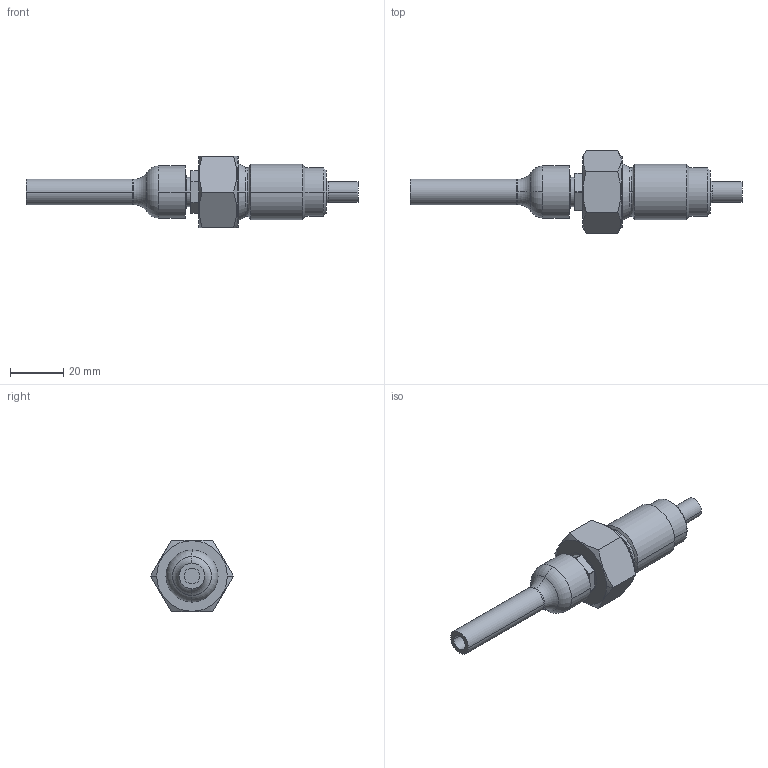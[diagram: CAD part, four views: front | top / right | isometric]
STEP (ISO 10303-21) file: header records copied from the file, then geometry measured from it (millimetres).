
FILE_DESCRIPTION( ( '' ), '1' );
FILE_NAME( '//partserver002.servicenet/client_exchange/iodir/jobs/output/wkb6669423_no2/STEP/sf321a_2_03.stp', '2007-03-28T08:02:23', ( '' ), ( '' ), ' ', ' ', ' ' );
FILE_SCHEMA( ( 'CONFIG_CONTROL_DESIGN' ) );
Length unit declared in the file: millimetre
Products named in the file (1): 1
Bounding box: 125 x 31.18 x 27 mm (x, y, z)
Volume: 27341 mm3; surface area: 8887.1 mm2
Topology: 1 solids, 1 shells, 74 faces, 174 edges, 110 vertices
Faces by surface type: plane 28, cylinder 22, torus 12, cone 12
Entity records: 2184 total; most frequent: DIRECTION 410, CARTESIAN_POINT 383, ORIENTED_EDGE 348, EDGE_CURVE 174, AXIS2_PLACEMENT_3D 173, VERTEX_POINT 110, CIRCLE 98, EDGE_LOOP 82
